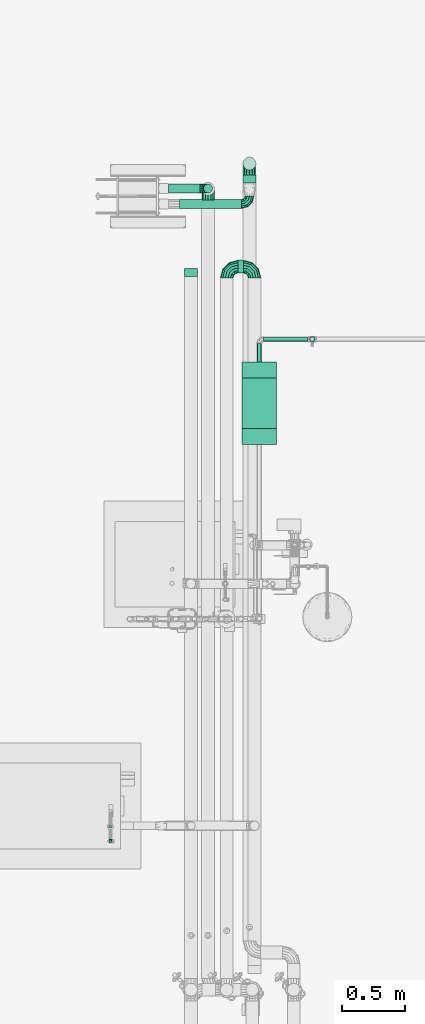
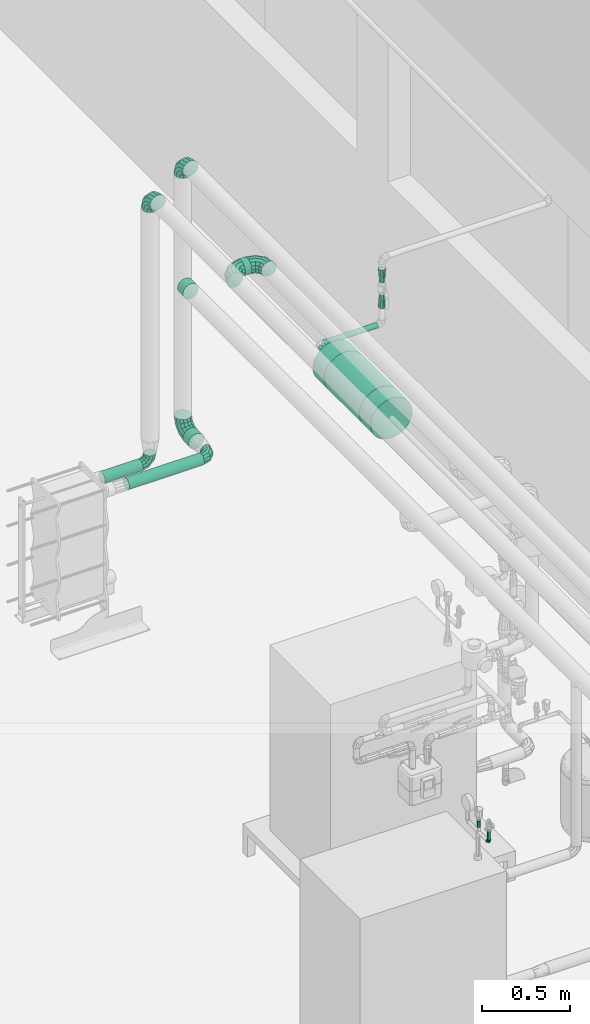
# One storey, part 26 of 43: 13 flow fittings, 9 flow segments.
"""IFC2X3 building model written with IfcOpenShell, lengths in millimetres."""

from ifc_helpers import new_model, entity, si_unit, converted_unit, derived_unit, direction, frame, frame_2d, origin, origin_2d_with_axis, place, context, subcontext, project, spatial, circle, extrude, faceted_brep, source, transform, mapped, material, material_list, type_object, type_shapes, element, save


model = new_model("IFC2X3")

# Units and contexts
model_context = context("Model", 3, precision=0.01, world=origin(), true_north=direction((6.123031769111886e-17, 1.0)))
body_context = subcontext(model_context, "Body", "Model", "MODEL_VIEW")
ifc_project = project(units=[si_unit("LENGTHUNIT", "METRE", prefix="MILLI"), si_unit("AREAUNIT", "SQUARE_METRE"), si_unit("VOLUMEUNIT", "CUBIC_METRE"), converted_unit("PLANEANGLEUNIT", "DEGREE", entity("IfcRatioMeasure", 0.017453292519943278), si_unit("PLANEANGLEUNIT", "RADIAN"), dimensions=[0, 0, 0, 0, 0, 0, 0]), si_unit("MASSUNIT", "GRAM", prefix="KILO"), derived_unit("MASSDENSITYUNIT", [(si_unit("MASSUNIT", "GRAM", prefix="KILO"), 1), (si_unit("LENGTHUNIT", "METRE"), -3)]), derived_unit("MOMENTOFINERTIAUNIT", [(si_unit("LENGTHUNIT", "METRE"), 4)]), si_unit("TIMEUNIT", "SECOND"), si_unit("FREQUENCYUNIT", "HERTZ"), si_unit("THERMODYNAMICTEMPERATUREUNIT", "DEGREE_CELSIUS"), derived_unit("THERMALTRANSMITTANCEUNIT", [(si_unit("MASSUNIT", "GRAM", prefix="KILO"), 1), (si_unit("THERMODYNAMICTEMPERATUREUNIT", "KELVIN"), -1), (si_unit("TIMEUNIT", "SECOND"), -3)]), derived_unit("VOLUMETRICFLOWRATEUNIT", [(si_unit("LENGTHUNIT", "METRE"), 3), (si_unit("TIMEUNIT", "SECOND"), -1)]), derived_unit("MASSFLOWRATEUNIT", [(si_unit("MASSUNIT", "GRAM", prefix="KILO"), 1), (si_unit("TIMEUNIT", "SECOND"), -1)]), derived_unit("ROTATIONALFREQUENCYUNIT", [(si_unit("TIMEUNIT", "SECOND"), -1)]), si_unit("ELECTRICCURRENTUNIT", "AMPERE"), si_unit("ELECTRICVOLTAGEUNIT", "VOLT"), si_unit("POWERUNIT", "WATT"), si_unit("FORCEUNIT", "NEWTON", prefix="KILO"), si_unit("ILLUMINANCEUNIT", "LUX"), si_unit("LUMINOUSFLUXUNIT", "LUMEN"), si_unit("LUMINOUSINTENSITYUNIT", "CANDELA"), derived_unit("USERDEFINED", [(si_unit("MASSUNIT", "GRAM", prefix="KILO"), -1), (si_unit("LENGTHUNIT", "METRE"), -2), (si_unit("TIMEUNIT", "SECOND"), 3), (si_unit("LUMINOUSFLUXUNIT", "LUMEN"), 1)]), derived_unit("SOUNDPOWERUNIT", [(si_unit("MASSUNIT", "GRAM", prefix="KILO"), 1), (si_unit("LENGTHUNIT", "METRE"), 2), (si_unit("TIMEUNIT", "SECOND"), -3)]), derived_unit("SOUNDPRESSUREUNIT", [(si_unit("MASSUNIT", "GRAM", prefix="KILO"), 1), (si_unit("LENGTHUNIT", "METRE"), -1), (si_unit("TIMEUNIT", "SECOND"), -2)]), derived_unit("LINEARVELOCITYUNIT", [(si_unit("LENGTHUNIT", "METRE"), 1), (si_unit("TIMEUNIT", "SECOND"), -1)]), si_unit("PRESSUREUNIT", "PASCAL"), derived_unit("USERDEFINED", [(si_unit("LENGTHUNIT", "METRE"), -2), (si_unit("MASSUNIT", "GRAM", prefix="KILO"), 1), (si_unit("TIMEUNIT", "SECOND"), -2)]), derived_unit("LINEARFORCEUNIT", [(si_unit("MASSUNIT", "GRAM", prefix="KILO"), 1), (si_unit("LENGTHUNIT", "METRE"), 1), (si_unit("TIMEUNIT", "SECOND"), -2), (si_unit("LENGTHUNIT", "METRE"), -1)]), derived_unit("PLANARFORCEUNIT", [(si_unit("MASSUNIT", "GRAM", prefix="KILO"), 1), (si_unit("LENGTHUNIT", "METRE"), 1), (si_unit("TIMEUNIT", "SECOND"), -2), (si_unit("LENGTHUNIT", "METRE"), -2)])], contexts=[model_context])

# Site, building, storey
site_placement = place(None, origin())
site = spatial("IfcSite", under=ifc_project, at=site_placement, Name="Default", CompositionType="ELEMENT")
building_placement = place(site_placement, origin())
building = spatial("IfcBuilding", under=site, at=building_placement, CompositionType="ELEMENT")
storey_placement = place(building_placement, frame((0.0, 0.0, 270.0)))
storey = spatial("IfcBuildingStorey", under=building, at=storey_placement, Name="Niveau 0", CompositionType="ELEMENT", Elevation=270.0)

# Flow segments
pipe_segment_type_1 = type_object("IfcPipeSegmentType", Name="Canalisation:tube acier", PredefinedType="NOTDEFINED")
flow_segment_1_placement = place(storey_placement, origin())
element("IfcFlowSegment", 1, at=flow_segment_1_placement, inside=storey, type_object=pipe_segment_type_1, Name="Canalisation:tube acier", ObjectType="Canalisation:tube acier", context=body_context, shape_type="SweptSolid", body=[
    extrude(circle(Radius=50.8, at=frame_2d((2.1657342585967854e-12, -5.414335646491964e-13), x_axis=(1.0, 0.0))), frame((-2131.5299038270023, -7102.512638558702, 2539.553718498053), z_axis=(1.0, 0.0, 0.0), x_axis=(0.0, 1.0, 0.0)), (0.0, 0.0, 1.0), 42.52990382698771),
])
flow_segment_2_placement = place(storey_placement, origin())
element("IfcFlowSegment", 2, at=flow_segment_2_placement, inside=storey, type_object=pipe_segment_type_1, Name="Canalisation:tube acier", ObjectType="Canalisation:tube acier", context=body_context, shape_type="SweptSolid", body=[
    extrude(circle(Radius=36.5125, at=frame_2d((-2.1657342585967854e-12, 0.0), x_axis=(1.0, 0.0))), frame((-2682.6132007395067, -6483.933635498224, 908.3648641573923), z_axis=(1.0, 0.0, 0.0), x_axis=(0.0, 1.0, 0.0)), (0.0, 0.0, 1.0), 250.3500206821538),
])
flow_segment_3_placement = place(storey_placement, origin())
element("IfcFlowSegment", 3, at=flow_segment_3_placement, inside=storey, type_object=pipe_segment_type_1, Name="Canalisation:tube acier", ObjectType="Canalisation:tube acier", context=body_context, shape_type="SweptSolid", body=[
    extrude(circle(Radius=36.5125, at=origin_2d_with_axis()), frame((-2593.6132007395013, -6606.933635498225, 909.0), z_axis=(1.0, 0.0, 0.0), x_axis=(0.0, -1.0, 0.0)), (0.0, 0.0, 1.0), 489.61320073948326),
])
flow_segment_4_placement = place(storey_placement, origin())
element("IfcFlowSegment", 4, at=flow_segment_4_placement, inside=storey, type_object=pipe_segment_type_1, Name="Canalisation:tube acier", ObjectType="Canalisation:tube acier", context=body_context, shape_type="SweptSolid", body=[
    extrude(circle(Radius=50.8, at=origin_2d_with_axis()), frame((-2040.0, -6440.933635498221, 909.0), z_axis=(0.0, 1.0, 0.0), x_axis=(1.0, 0.0, 0.0)), (0.0, 0.0, 1.0), 65.43363549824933),
])
flow_segment_5_placement = place(storey_placement, origin())
element("IfcFlowSegment", 5, at=flow_segment_5_placement, inside=storey, type_object=pipe_segment_type_1, Name="Canalisation:tube acier", ObjectType="Canalisation:tube acier", context=body_context, shape_type="SweptSolid", body=[
    extrude(circle(Radius=10.668, at=origin_2d_with_axis()), frame((-3141.4359306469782, -11654.068073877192, 1706.6450211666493), z_axis=(0.0, 0.0, 1.0), x_axis=(-1.0, 0.0, 0.0)), (0.0, 0.0, 1.0), 64.09101562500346),
])
flow_segment_6_placement = place(storey_placement, origin())
element("IfcFlowSegment", 6, at=flow_segment_6_placement, inside=storey, type_object=pipe_segment_type_1, Name="Canalisation:tube acier", ObjectType="Canalisation:tube acier", context=body_context, shape_type="SweptSolid", body=[
    extrude(circle(Radius=10.668, at=origin_2d_with_axis()), frame((-3141.435930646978, -11540.055119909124, 1726.4040367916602), z_axis=(0.0, 0.0, 1.0), x_axis=(-1.0, 0.0, 0.0)), (0.0, 0.0, 1.0), 44.33199999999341),
])

# Flow fittings
ifc_material = material(Name="<Unnamed>")
pipe_fitting_type_1 = type_object("IfcPipeFittingType", Name="Chapeau - Générique:Standard", PredefinedType="NOTDEFINED", material=ifc_material)
shared_shape_1 = source(origin(), body_context, "Body", "SweptSolid", [
    extrude(circle(Radius=136.5, at=frame_2d((0.0, -2.2052183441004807e-13), x_axis=(1.0, 0.0))), frame((0.0, 0.0, 0.0), z_axis=(1.0, 0.0, 0.0), x_axis=(0.0, 1.0, 0.0)), (0.0, 0.0, 1.0), 127.00000000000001),
])
type_shapes(pipe_fitting_type_1, [shared_shape_1])
for number, where, z_axis, x_axis in (
    (7, (-1962.4830858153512, -7984.724284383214, 2295.74259188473), (0.0, 0.0, 1.0), (0.0, 1.0, 0.0)),
    (8, (-1962.483085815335, -8384.724284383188, 2295.7425918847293), (0.0, 0.0, 1.0), (0.0, -1.0, 0.0)),
):
    element("IfcFlowFitting", number, at=place(storey_placement, frame(where, z_axis=z_axis, x_axis=x_axis)), inside=storey, type_object=pipe_fitting_type_1, material=ifc_material, Name="Chapeau - Générique:Standard", ObjectType="Chapeau - Générique:Standard", context=body_context, shape_type="MappedRepresentation", body=[
        mapped(shared_shape_1, transform((0.0, 0.0, 0.0), scale=1.0)),
    ])
pipe_fitting_type_2 = type_object("IfcPipeFittingType", Name="Chapeau - Générique:Standard", PredefinedType="NOTDEFINED", material=ifc_material)
shared_shape_2 = source(origin(), body_context, "Body", "SweptSolid", [
    extrude(circle(Radius=50.8, at=frame_2d((0.0, -8.206966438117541e-14), x_axis=(1.0, 0.0))), frame((0.0, 0.0, 0.0), z_axis=(1.0, 0.0, 0.0), x_axis=(0.0, 1.0, 0.0)), (0.0, 0.0, 1.0), 64.0),
])
type_shapes(pipe_fitting_type_2, [shared_shape_2])
flow_fitting_1_placement = place(storey_placement, frame((-2503.263180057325, -7180.1217508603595, 2554.015858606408), z_axis=(0.0, 0.0, 1.0), x_axis=(0.0, 1.0, 0.0)))
element("IfcFlowFitting", 9, at=flow_fitting_1_placement, inside=storey, type_object=pipe_fitting_type_2, material=ifc_material, Name="Chapeau - Générique:Standard", ObjectType="Chapeau - Générique:Standard", context=body_context, shape_type="MappedRepresentation", body=[
    mapped(shared_shape_2, transform((0.0, 0.0, 0.0), scale=1.0)),
])
ifc_material_list_1 = material_list([ifc_material, ifc_material])
pipe_fitting_type_3 = type_object("IfcPipeFittingType", Name="Coude - Générique:Standard", PredefinedType="NOTDEFINED", material=ifc_material_list_1)
shared_shape_3 = source(origin(), body_context, "Body", "Brep", [
    faceted_brep([(32.07035144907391, 19.099999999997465, 0.0), (27.713566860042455, 21.615390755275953, -22.04129394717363), (45.76921848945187, 89.0, -22.04129394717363), (50.80000000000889, 89.0, 0.0), (15.506127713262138, 28.663359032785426, -39.71703930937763), (31.67328193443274, 89.0, -39.71703930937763), (-2.1341329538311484, 38.84796827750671, -49.52633793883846), (11.304063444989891, 89.0, -49.52633793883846), (-21.713345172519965, 50.15203172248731, -49.526337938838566), (-11.304063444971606, 89.0, -49.526337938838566), (-39.35360583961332, 60.33664096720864, -39.71703930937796), (-31.67328193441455, 89.0, -39.71703930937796), (-51.56104498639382, 67.3846092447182, -22.041293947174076), (-45.769218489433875, 89.0, -22.041293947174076), (-55.91782957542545, 69.89999999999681, 0.0), (-50.79999999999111, 89.0, 0.0), (-51.56104498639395, 67.38460924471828, 22.041293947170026), (-45.76921848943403, 89.0, 22.041293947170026), (-39.35360583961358, 60.33664096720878, 39.71703930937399), (-31.673281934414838, 89.0, 39.71703930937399), (-21.713345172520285, 50.15203172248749, 49.52633793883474), (-11.304063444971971, 89.0, 49.52633793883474), (-2.134132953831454, 38.84796827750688, 49.52633793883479), (11.304063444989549, 89.0, 49.52633793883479), (15.506127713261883, 28.663359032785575, 39.71703930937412), (31.673281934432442, 89.0, 39.71703930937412), (27.713566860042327, 21.615390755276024, 22.04129394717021), (45.76921848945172, 89.0, 22.04129394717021), (-19.099999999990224, -32.07035144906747, 0.0), (-21.61539075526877, -27.713566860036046, -22.04129394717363), (-28.663359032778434, -15.506127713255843, -39.71703930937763), (-38.847968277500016, 2.1341329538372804, -49.52633793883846), (-50.15203172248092, 21.71334517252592, -49.526337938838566), (-60.33664096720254, 39.35360583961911, -39.71703930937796), (-67.38460924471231, 51.56104498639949, -22.041293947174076), (-69.89999999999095, 55.91782957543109, 0.0), (-67.3846092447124, 51.56104498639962, 22.041293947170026), (-60.33664096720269, 39.353605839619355, 39.71703930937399), (-50.152031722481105, 21.71334517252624, 49.52633793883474), (-38.84796827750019, 2.134132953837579, 49.52633793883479), (-28.663359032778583, -15.506127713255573, 39.71703930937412), (-21.61539075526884, -27.713566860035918, 22.04129394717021), (-89.0, -50.80000000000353, 0.0), (-89.0, -45.769218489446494, -22.04129394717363), (-89.0, -31.673281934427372, -39.71703930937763), (-89.0, -11.304063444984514, -49.52633793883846), (-89.0, 11.304063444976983, -49.526337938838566), (-89.0, 31.673281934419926, -39.71703930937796), (-89.0, 45.769218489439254, -22.041293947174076), (-89.0, 50.79999999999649, 0.0), (-89.0, 45.76921848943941, 22.041293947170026), (-89.0, 31.673281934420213, 39.71703930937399), (-89.0, 11.304063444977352, 49.52633793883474), (-89.0, -11.304063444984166, 49.52633793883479), (-89.0, -31.673281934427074, 39.71703930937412), (-89.0, -45.76921848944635, 22.04129394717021)], [[[0, 1, 2, 3]], [[1, 4, 5, 2]], [[4, 6, 7, 5]], [[6, 8, 9, 7]], [[8, 10, 11, 9]], [[10, 12, 13, 11]], [[12, 14, 15, 13]], [[14, 16, 17, 15]], [[16, 18, 19, 17]], [[18, 20, 21, 19]], [[20, 22, 23, 21]], [[22, 24, 25, 23]], [[24, 26, 27, 25]], [[26, 0, 3, 27]], [[28, 29, 1, 0]], [[29, 30, 4, 1]], [[30, 31, 6, 4]], [[31, 32, 8, 6]], [[32, 33, 10, 8]], [[33, 34, 12, 10]], [[34, 35, 14, 12]], [[35, 36, 16, 14]], [[36, 37, 18, 16]], [[37, 38, 20, 18]], [[38, 39, 22, 20]], [[39, 40, 24, 22]], [[40, 41, 26, 24]], [[41, 28, 0, 26]], [[42, 43, 29, 28]], [[43, 44, 30, 29]], [[44, 45, 31, 30]], [[45, 46, 32, 31]], [[46, 47, 33, 32]], [[47, 48, 34, 33]], [[48, 49, 35, 34]], [[49, 50, 36, 35]], [[50, 51, 37, 36]], [[51, 52, 38, 37]], [[52, 53, 39, 38]], [[53, 54, 40, 39]], [[54, 55, 41, 40]], [[55, 42, 28, 41]], [[3, 2, 5, 7, 9, 11, 13, 15, 17, 19, 21, 23, 25, 27]], [[55, 54, 53, 52, 51, 50, 49, 48, 47, 46, 45, 44, 43, 42]]]),
])
type_shapes(pipe_fitting_type_3, [shared_shape_3])
for number, where, z_axis, x_axis in (
    (10, (-2368.2631800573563, -6486.499999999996, 2751.9883586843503), (-1.0, 0.0, 0.0), (0.0, 1.0, 0.0)),
    (11, (-2000.0, -7102.512638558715, 2539.5537184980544), (0.0, 0.0, 1.0), (0.0, 1.0, 0.0)),
    (12, (-2220.5299038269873, -7102.512638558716, 2539.5537184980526), (0.0, 0.0, 1.0), (-1.0, 0.0, 0.0)),
    (13, (-2040.0, -6286.499999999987, 2751.988358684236), (-1.0, 0.0, 0.0), (0.0, 1.0, 0.0)),
    (14, (-2040.0, -6286.499999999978, 909.0), (1.0, 0.0, 0.0), (0.0, 1.0, 0.0)),
):
    element("IfcFlowFitting", number, at=place(storey_placement, frame(where, z_axis=z_axis, x_axis=x_axis)), inside=storey, type_object=pipe_fitting_type_3, material=ifc_material, Name="Coude - Générique:Standard", ObjectType="Coude - Générique:Standard", context=body_context, shape_type="MappedRepresentation", body=[
        mapped(shared_shape_3, transform((0.0, 0.0, 0.0), scale=1.0)),
    ])
ifc_material_list_2 = material_list([ifc_material, ifc_material])
pipe_fitting_type_4 = type_object("IfcPipeFittingType", Name="Coude - Générique:Standard", PredefinedType="NOTDEFINED", material=ifc_material_list_2)
shared_shape_4 = source(origin(), body_context, "Body", "Brep", [
    faceted_brep([(23.03555308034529, 13.749999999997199, 0.0), (18.800625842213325, 16.19503638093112, -18.250000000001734), (31.60992723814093, 64.0, -18.250000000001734), (36.50000000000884, 64.0, 0.0), (7.230589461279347, 22.874999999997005, -31.609927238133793), (18.250000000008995, 64.0, -31.609927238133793), (-8.574374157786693, 32.0, -36.50000000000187), (0.0, 64.0, -36.50000000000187), (-24.379337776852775, 41.12499999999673, -31.609927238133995), (-18.249999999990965, 64.0, -31.609927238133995), (-35.94937415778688, 47.8049636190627, -18.250000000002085), (-31.609927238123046, 64.0, -18.250000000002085), (-40.184301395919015, 50.24999999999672, 0.0), (-36.49999999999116, 64.0, 0.0), (-35.949374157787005, 47.80496361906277, 18.249999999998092), (-31.609927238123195, 64.0, 18.249999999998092), (-24.37933777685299, 41.12499999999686, 31.609927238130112), (-18.249999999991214, 64.0, 31.609927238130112), (-8.574374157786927, 32.0, 36.49999999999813), (0.0, 64.0, 36.49999999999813), (7.2305894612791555, 22.87499999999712, 31.609927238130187), (18.250000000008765, 64.0, 31.609927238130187), (18.80062584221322, 16.195036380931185, 18.24999999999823), (31.6099272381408, 64.0, 18.24999999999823), (-13.749999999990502, -23.035553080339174, 0.0), (-16.1950363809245, -18.80062584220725, -18.250000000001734), (-22.874999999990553, -7.230589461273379, -31.609927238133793), (-32.0, 8.574374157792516, -36.50000000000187), (-41.124999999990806, 24.379337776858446, -31.609927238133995), (-47.804963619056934, 35.94937415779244, -18.250000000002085), (-50.24999999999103, 40.18430139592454, 0.0), (-47.80496361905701, 35.94937415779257, 18.249999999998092), (-41.12499999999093, 24.37933777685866, 31.609927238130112), (-32.0, 8.574374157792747, 36.49999999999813), (-22.874999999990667, -7.23058946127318, 31.609927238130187), (-16.195036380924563, -18.800625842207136, 18.24999999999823), (-64.0, -36.50000000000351, 0.0), (-64.0, -31.609927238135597, -18.250000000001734), (-64.0, -18.250000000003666, -31.609927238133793), (-64.0, 0.0, -36.50000000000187), (-64.0, 18.249999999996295, -31.609927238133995), (-64.0, 31.60992723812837, -18.250000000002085), (-64.0, 36.49999999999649, 0.0), (-64.0, 31.60992723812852, 18.249999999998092), (-64.0, 18.249999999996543, 31.609927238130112), (-64.0, 0.0, 36.49999999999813), (-64.0, -18.25000000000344, 31.609927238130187), (-64.0, -31.60992723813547, 18.24999999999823)], [[[0, 1, 2, 3]], [[1, 4, 5, 2]], [[4, 6, 7, 5]], [[6, 8, 9, 7]], [[8, 10, 11, 9]], [[10, 12, 13, 11]], [[12, 14, 15, 13]], [[14, 16, 17, 15]], [[16, 18, 19, 17]], [[18, 20, 21, 19]], [[20, 22, 23, 21]], [[22, 0, 3, 23]], [[24, 25, 1, 0]], [[25, 26, 4, 1]], [[26, 27, 6, 4]], [[27, 28, 8, 6]], [[28, 29, 10, 8]], [[29, 30, 12, 10]], [[30, 31, 14, 12]], [[31, 32, 16, 14]], [[32, 33, 18, 16]], [[33, 34, 20, 18]], [[34, 35, 22, 20]], [[35, 24, 0, 22]], [[36, 37, 25, 24]], [[37, 38, 26, 25]], [[38, 39, 27, 26]], [[39, 40, 28, 27]], [[40, 41, 29, 28]], [[41, 42, 30, 29]], [[42, 43, 31, 30]], [[43, 44, 32, 31]], [[44, 45, 33, 32]], [[45, 46, 34, 33]], [[46, 47, 35, 34]], [[47, 36, 24, 35]], [[3, 2, 5, 7, 9, 11, 13, 15, 17, 19, 21, 23]], [[47, 46, 45, 44, 43, 42, 41, 40, 39, 38, 37, 36]]]),
])
type_shapes(pipe_fitting_type_4, [shared_shape_4])
flow_fitting_2_placement = place(storey_placement, frame((-2368.263180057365, -6483.933635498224, 908.3648641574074), z_axis=(0.0, 1.0, 0.0), x_axis=(0.0, 0.0, -1.0)))
element("IfcFlowFitting", 15, at=flow_fitting_2_placement, inside=storey, type_object=pipe_fitting_type_4, material=ifc_material, Name="Coude - Générique:Standard", ObjectType="Coude - Générique:Standard", context=body_context, shape_type="MappedRepresentation", body=[
    mapped(shared_shape_4, transform((0.0, 0.0, 0.0), scale=1.0)),
])
flow_fitting_3_placement = place(storey_placement, frame((-2040.0, -6606.933635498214, 909.0)))
element("IfcFlowFitting", 16, at=flow_fitting_3_placement, inside=storey, type_object=pipe_fitting_type_4, material=ifc_material, Name="Coude - Générique:Standard", ObjectType="Coude - Générique:Standard", context=body_context, shape_type="MappedRepresentation", body=[
    mapped(shared_shape_4, transform((0.0, 0.0, 0.0), scale=1.0)),
])
ifc_material_list_3 = material_list([ifc_material, ifc_material])
ifc_material_list_4 = material_list([ifc_material, ifc_material])
pipe_fitting_type_5 = type_object("IfcPipeFittingType", Name="Coude - Générique:Standard", PredefinedType="NOTDEFINED", material=ifc_material_list_4)
shared_shape_5 = source(origin(), body_context, "Body", "Brep", [
    faceted_brep([(4.326975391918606, -4.326975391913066, 0.0), (1.6948585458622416, -1.6948585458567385, -8.986609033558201), (8.986609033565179, 15.908984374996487, -8.986609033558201), (12.70898437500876, 15.908984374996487, 0.0), (-4.659633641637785, 4.659633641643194, -12.708984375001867), (0.0, 15.908984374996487, -12.708984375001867), (-11.014125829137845, 11.014125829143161, -8.986609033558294), (-8.986609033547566, 15.908984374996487, -8.986609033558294), (-13.646242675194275, 13.646242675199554, 0.0), (-12.708984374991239, 15.908984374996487, 0.0), (-11.014125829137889, 11.014125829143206, 8.986609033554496), (-8.986609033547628, 15.908984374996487, 8.986609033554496), (-4.6596336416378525, 4.6596336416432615, 12.708984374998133), (0.0, 15.908984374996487, 12.708984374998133), (1.6948585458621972, -1.6948585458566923, 8.986609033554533), (8.986609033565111, 15.908984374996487, 8.986609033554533), (-15.908984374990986, -12.708984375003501, 0.0), (-15.908984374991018, -8.98660903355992, -8.986609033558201), (-15.9089843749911, 0.0, -12.708984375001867), (-15.908984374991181, 8.986609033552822, -8.986609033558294), (-15.908984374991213, 12.708984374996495, 0.0), (-15.908984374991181, 8.986609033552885, 8.986609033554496), (-15.9089843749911, 0.0, 12.708984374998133), (-15.908984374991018, -8.986609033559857, 8.986609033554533)], [[[0, 1, 2, 3]], [[1, 4, 5, 2]], [[4, 6, 7, 5]], [[6, 8, 9, 7]], [[8, 10, 11, 9]], [[10, 12, 13, 11]], [[12, 14, 15, 13]], [[14, 0, 3, 15]], [[16, 17, 1, 0]], [[17, 18, 4, 1]], [[18, 19, 6, 4]], [[19, 20, 8, 6]], [[20, 21, 10, 8]], [[21, 22, 12, 10]], [[22, 23, 14, 12]], [[23, 16, 0, 14]], [[3, 2, 5, 7, 9, 11, 13, 15]], [[23, 22, 21, 20, 19, 18, 17, 16]]]),
])
type_shapes(pipe_fitting_type_5, [shared_shape_5])
flow_fitting_4_placement = place(storey_placement, frame((-3141.43593064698, -11654.068073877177, 1690.7360367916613), z_axis=(-1.0, 0.0, 0.0), x_axis=(0.0, -1.0, 0.0)))
element("IfcFlowFitting", 17, at=flow_fitting_4_placement, inside=storey, type_object=pipe_fitting_type_5, material=ifc_material_list_3, Name="Coude - Générique:Standard", ObjectType="Coude - Générique:Standard", context=body_context, shape_type="MappedRepresentation", body=[
    mapped(shared_shape_5, transform((0.0, 0.0, 0.0), scale=1.0)),
])

# Flow segments
pipe_segment_type_2 = type_object("IfcPipeSegmentType", Name="Canalisation:tuyau cuivre", PredefinedType="NOTDEFINED")
flow_segment_7_placement = place(storey_placement, origin())
element("IfcFlowSegment", 18, at=flow_segment_7_placement, inside=storey, type_object=pipe_segment_type_2, Name="Canalisation:tuyau cuivre", ObjectType="Canalisation:tuyau cuivre", context=body_context, shape_type="SweptSolid", body=[
    extrude(circle(Radius=17.5, at=frame_2d((3.2486013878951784e-12, 5.414335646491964e-13), x_axis=(1.0, 0.0))), frame((-1962.4830858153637, -7857.724284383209, 2295.7425918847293), z_axis=(0.0, 1.0, 0.0), x_axis=(-1.0, 0.0, 0.0)), (0.0, 0.0, 1.0), 146.33601147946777),
])
flow_segment_8_placement = place(storey_placement, origin())
element("IfcFlowSegment", 19, at=flow_segment_8_placement, inside=storey, type_object=pipe_segment_type_2, Name="Canalisation:tuyau cuivre", ObjectType="Canalisation:tuyau cuivre", context=body_context, shape_type="SweptSolid", body=[
    extrude(circle(Radius=17.5, at=frame_2d((4.902709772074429e-42, 5.414335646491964e-13), x_axis=(1.0, 0.0))), frame((-1928.271367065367, -7677.176554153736, 2295.7425918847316), z_axis=(1.0, 0.0, 0.0), x_axis=(0.0, -1.0, 0.0)), (0.0, 0.0, 1.0), 351.5765625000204),
])
pipe_segment_type_3 = type_object("IfcPipeSegmentType", Name="Canalisation:Acier gaz", PredefinedType="NOTDEFINED")
flow_segment_9_placement = place(storey_placement, origin())
element("IfcFlowSegment", 20, at=flow_segment_9_placement, inside=storey, type_object=pipe_segment_type_3, Name="Canalisation:Acier gaz", ObjectType="Canalisation:Acier gaz", context=body_context, shape_type="SweptSolid", body=[
    extrude(circle(Radius=136.525, at=frame_2d((-2.707167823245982e-13, 0.0), x_axis=(1.0, 0.0))), frame((-1962.483085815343, -8384.724284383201, 2295.7425918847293), z_axis=(0.0, 1.0, 0.0), x_axis=(-1.0, 0.0, 0.0)), (0.0, 0.0, 1.0), 400.0),
])

# Flow fittings
pipe_fitting_type_6 = type_object("IfcPipeFittingType", Name="Transformation - Générique:Standard", PredefinedType="NOTDEFINED", material=ifc_material)
shared_shape_6 = source(origin(), body_context, "Body", "Brep", [
    faceted_brep([(91.44531250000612, 11.808683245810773, -11.808683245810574), (91.44531250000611, 13.03151243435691, -8.85651243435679), (91.44531250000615, 14.254341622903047, -5.904341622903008), (91.44531250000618, 15.477170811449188, -2.9521708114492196), (91.44531250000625, 16.69999999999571, 0.0), (91.44531250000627, 15.477170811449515, 2.952170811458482), (91.44531250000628, 14.25434162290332, 5.904341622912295), (91.4453125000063, 13.031512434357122, 8.856512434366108), (91.44531250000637, 11.80868324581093, 11.808683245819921), (91.44531250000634, 8.856512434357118, 13.031512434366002), (91.44531250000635, 5.904341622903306, 14.254341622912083), (91.44531250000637, 2.9521708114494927, 15.477170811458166), (91.44531250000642, 0.0, 16.70000000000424), (91.44531250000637, -2.9521708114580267, 15.477170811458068), (91.44531250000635, -5.904341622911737, 14.254341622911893), (91.44531250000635, -8.856512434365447, 13.031512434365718), (91.44531250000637, -11.80868324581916, 11.80868324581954), (91.44531250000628, -13.031512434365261, 8.856512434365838), (91.44531250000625, -14.25434162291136, 5.904341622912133), (91.44531250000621, -15.477170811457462, 2.9521708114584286), (91.44531250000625, -16.700000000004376, 0.0), (91.44531250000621, -15.47717081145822, -2.9521708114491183), (91.4453125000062, -14.254341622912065, -5.904341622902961), (91.44531250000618, -13.031512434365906, -8.856512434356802), (91.44531250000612, -11.808683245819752, -11.808683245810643), (91.44531250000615, -8.85651243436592, -13.031512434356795), (91.44531250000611, -5.904341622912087, -14.254341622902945), (91.44531250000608, -2.9521708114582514, -15.4771708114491), (91.44531250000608, 0.0, -16.699999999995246), (91.44531250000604, 2.9521708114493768, -15.47717081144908), (91.44531250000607, 5.904341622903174, -14.254341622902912), (91.44531250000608, 8.856512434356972, -13.031512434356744), (0.0, 22.70898437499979, 0.0), (0.0, 20.54046932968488, -6.674003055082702), (0.0, 18.371954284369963, -13.34800611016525), (0.0, 12.694708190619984, -17.472766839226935), (0.0, 7.017462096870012, -21.59752756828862), (0.0, 0.0, -21.59752756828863), (0.0, -7.017462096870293, -21.597527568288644), (0.0, -12.694708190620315, -17.472766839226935), (0.0, -18.371954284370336, -13.348006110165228), (0.0, -19.456211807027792, -10.011004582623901), (0.0, -20.540469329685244, -6.674003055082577), (0.0, -22.708984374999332, 0.0), (0.0, -20.54046932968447, 6.674003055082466), (0.0, -18.371954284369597, 13.348006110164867), (0.0, -12.69470819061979, 17.472766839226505), (0.0, -7.017462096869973, 21.597527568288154), (0.0, 0.0, 21.59752756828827), (0.0, 7.0174620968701, 21.59752756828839), (0.0, 12.694708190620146, 17.472766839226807), (0.0, 18.37195428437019, 13.348006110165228), (0.0, 19.45621180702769, 10.011004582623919), (0.0, 20.540469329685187, 6.674003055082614)], [[[0, 1, 2, 3, 4, 5, 6, 7, 8, 9, 10, 11, 12, 13, 14, 15, 16, 17, 18, 19, 20, 21, 22, 23, 24, 25, 26, 27, 28, 29, 30, 31]], [[32, 33, 34, 35, 36, 37, 38, 39, 40, 41, 42, 43, 44, 45, 46, 47, 48, 49, 50, 51, 52, 53]], [[40, 24, 23]], [[30, 36, 35]], [[22, 42, 41]], [[35, 0, 31, 30]], [[34, 2, 1, 0]], [[35, 34, 0]], [[37, 29, 28]], [[24, 40, 39]], [[32, 3, 33]], [[27, 37, 28]], [[43, 21, 20]], [[2, 34, 33]], [[39, 26, 25, 24]], [[21, 43, 42]], [[37, 27, 38]], [[36, 29, 37]], [[36, 30, 29]], [[27, 26, 38]], [[3, 32, 4]], [[22, 21, 42]], [[40, 23, 41]], [[23, 22, 41]], [[26, 39, 38]], [[3, 2, 33]], [[51, 8, 7]], [[14, 47, 46]], [[6, 53, 52]], [[46, 16, 15, 14]], [[45, 18, 17, 16]], [[46, 45, 16]], [[48, 13, 12]], [[8, 51, 50]], [[43, 19, 44]], [[11, 48, 12]], [[32, 5, 4]], [[18, 45, 44]], [[50, 10, 9, 8]], [[5, 32, 53]], [[48, 11, 49]], [[47, 13, 48]], [[47, 14, 13]], [[11, 10, 49]], [[19, 43, 20]], [[6, 5, 53]], [[51, 7, 52]], [[7, 6, 52]], [[10, 50, 49]], [[19, 18, 44]]]),
])
type_shapes(pipe_fitting_type_6, [shared_shape_6])
for number, where, z_axis, x_axis in (
    (21, (-1542.4830858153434, -7677.176554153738, 2676.8107877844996), (0.0, -1.0, 0.0), (0.0, 0.0, -1.0)),
    (22, (-1542.4830858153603, -7677.176554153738, 2411.9201627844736), (0.0, -1.0, 0.0), (0.0, 0.0, 1.0)),
):
    element("IfcFlowFitting", number, at=place(storey_placement, frame(where, z_axis=z_axis, x_axis=x_axis)), inside=storey, type_object=pipe_fitting_type_6, material=ifc_material, Name="Transformation - Générique:Standard", ObjectType="Transformation - Générique:Standard", context=body_context, shape_type="MappedRepresentation", body=[
        mapped(shared_shape_6, transform((0.0, 0.0, 0.0), scale=1.0)),
    ])

save(model, "model.ifc")
